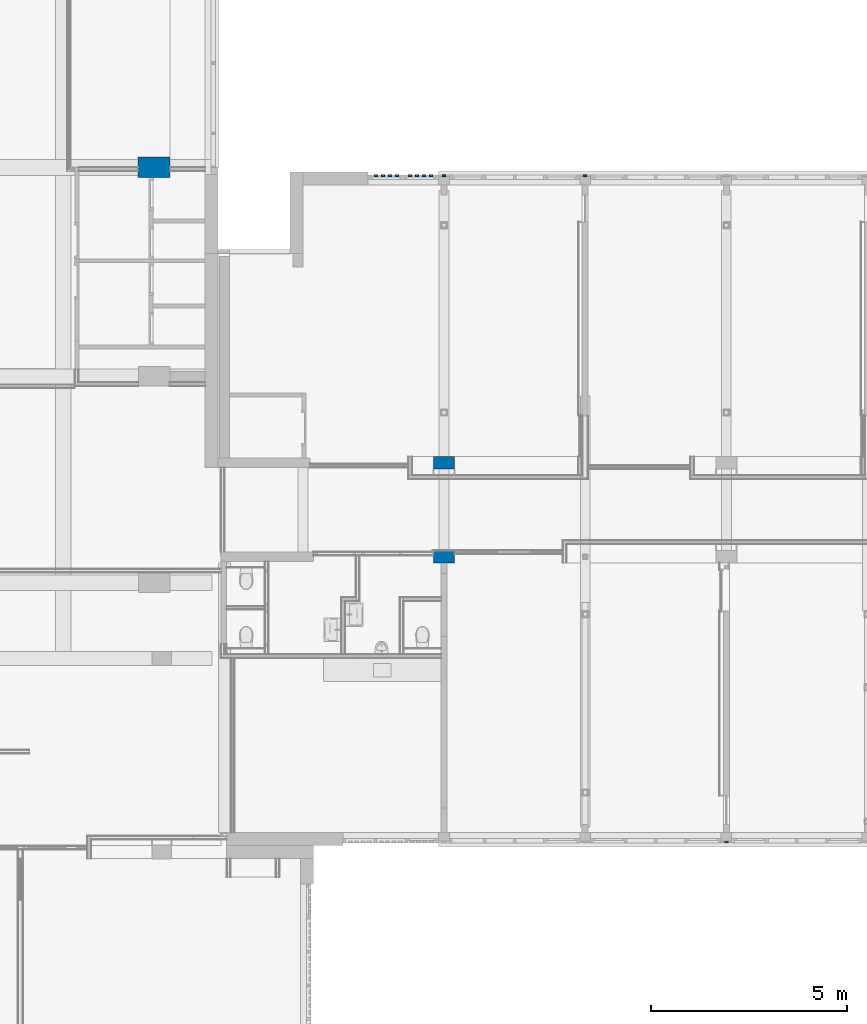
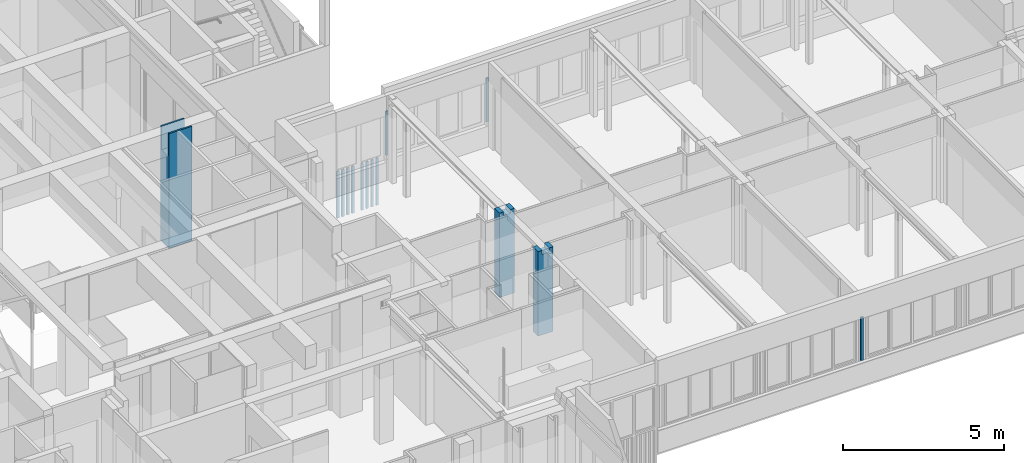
# One storey, part 17 of 117: 14 columns.
"""IFC2X3 building model written with IfcOpenShell, lengths in millimetres."""

from ifc_helpers import new_model, entity, si_unit, converted_unit, derived_unit, money_unit, direction, frame, origin_with_axes, place, context, subcontext, project, spatial, faceted_brep, material, type_object, element, save


model = new_model("IFC2X3")

# Units and contexts
model_context = context("Model", 3, precision=0.01, world=origin_with_axes(), true_north=direction((0.0, 1.0)))
body_context = subcontext(model_context, "Body", "Model", "MODEL_VIEW")
ifc_project = project(units=[si_unit("LENGTHUNIT", "METRE", prefix="MILLI"), si_unit("AREAUNIT", "SQUARE_METRE"), si_unit("VOLUMEUNIT", "CUBIC_METRE"), converted_unit("PLANEANGLEUNIT", "DEGREE", entity("IfcPlaneAngleMeasure", 0.0174532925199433), si_unit("PLANEANGLEUNIT", "RADIAN"), dimensions=[0, 0, 0, 0, 0, 0, 0]), money_unit("EUR"), converted_unit("TIMEUNIT", "Year", entity("IfcTimeMeasure", 31557600.0), si_unit("TIMEUNIT", "SECOND"), dimensions=[0, 0, 1, 0, 0, 0, 0]), si_unit("MASSUNIT", "GRAM", prefix="KILO"), si_unit("THERMODYNAMICTEMPERATUREUNIT", "DEGREE_CELSIUS"), si_unit("LUMINOUSINTENSITYUNIT", "LUMEN"), si_unit("ENERGYUNIT", "JOULE", prefix="MEGA"), derived_unit("THERMALCONDUCTANCEUNIT", [(si_unit("POWERUNIT", "WATT"), 1), (si_unit("LENGTHUNIT", "METRE"), -1), (si_unit("THERMODYNAMICTEMPERATUREUNIT", "KELVIN"), -1)]), derived_unit("SPECIFICHEATCAPACITYUNIT", [(si_unit("ENERGYUNIT", "JOULE"), 1), (si_unit("MASSUNIT", "GRAM", prefix="KILO"), -1), (si_unit("THERMODYNAMICTEMPERATUREUNIT", "KELVIN"), -1)]), derived_unit("MASSDENSITYUNIT", [(si_unit("MASSUNIT", "GRAM", prefix="KILO"), 1), (si_unit("VOLUMEUNIT", "CUBIC_METRE"), -1)])], contexts=[model_context])

# Site, building, storey
site_placement = place(None, origin_with_axes())
site = spatial("IfcSite", under=ifc_project, at=site_placement, Name="Site", CompositionType="ELEMENT")
building_placement = place(site_placement, origin_with_axes())
building = spatial("IfcBuilding", under=site, at=building_placement, Name="Naam gebouw", CompositionType="ELEMENT")
storey_placement = place(building_placement, frame((0.0, 0.0, 4150.0), z_axis=(0.0, 0.0, 1.0), x_axis=(1.0, 0.0, 0.0)))
storey = spatial("IfcBuildingStorey", under=building, at=storey_placement, Name="1e verdieping N", CompositionType="ELEMENT", Elevation=4150.0)

# Columns
ifc_material_1 = material(Name="Metaal - Staal C")
column_type_1 = type_object("IfcColumnType", Name="Metaal - Staal C 90 x 44", PredefinedType="COLUMN")
column_1_placement = place(storey_placement, frame((43199.99999999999, 10752.91242510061, 782.9999999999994), z_axis=(0.0, 0.0, 1.0), x_axis=(1.0, 0.0, 0.0)))
element("IfcColumn", 1, at=column_1_placement, inside=storey, type_object=column_type_1, material=ifc_material_1, Name="_Kolom-x", ObjectType="COLUMN", context=body_context, shape_type="Brep", body=[
    faceted_brep([(45.00000000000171, -22.00000000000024, 17.63269807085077), (45.00000000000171, -16.99999999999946, 18.51433297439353), (45.00000000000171, -16.99999999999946, 28.51433297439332), (45.00000000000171, -14.99999999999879, 28.51433297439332), (45.00000000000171, -14.99999999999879, 16.83613371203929), (45.00000000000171, -22.00000000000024, 15.6018448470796), (45.00000000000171, -22.00000000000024, 0.0), (45.00000000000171, 22.00000000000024, 0.0), (45.00000000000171, 22.00000000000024, 1657.0), (45.00000000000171, -22.00000000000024, 1657.0), (-45.00000000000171, -16.99999999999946, 18.51433297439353), (-45.00000000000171, -22.00000000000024, 17.63269807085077), (-45.00000000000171, -16.99999999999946, 28.51433297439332), (-45.00000000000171, -14.99999999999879, 28.51433297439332), (-45.00000000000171, -14.99999999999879, 16.83613371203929), (-45.00000000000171, -22.00000000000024, 15.6018448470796), (-45.00000000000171, -22.00000000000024, 0.0), (-45.00000000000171, 22.00000000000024, 0.0), (-45.00000000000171, 22.00000000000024, 1657.0), (-45.00000000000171, -22.00000000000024, 1657.0)], [[[0, 1, 2, 3, 4, 5, 6, 7, 8, 9]], [[10, 1, 0, 11]], [[12, 2, 1, 10]], [[13, 3, 2, 12]], [[14, 4, 3, 13]], [[15, 5, 4, 14]], [[6, 5, 15, 16]], [[7, 6, 16, 17]], [[18, 8, 7, 17]], [[8, 18, 19, 9]], [[19, 11, 0, 9]], [[12, 10, 11, 19, 18, 17, 16, 15, 14, 13]]]),
])
for number, where, z_axis, x_axis, name in (
    (2, (39599.99999999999, 27743.91242510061, 782.9999999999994), (0.0, 0.0, 1.0), (-1.0, 0.0, 0.0), "_Kolom-x"),
    (3, (35999.99999999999, 27743.91242510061, 782.9999999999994), (0.0, 0.0, 1.0), (-1.0, 0.0, 0.0), "_Kolom-x"),
):
    element("IfcColumn", number, at=place(storey_placement, frame(where, z_axis=z_axis, x_axis=x_axis)), inside=storey, type_object=column_type_1, material=ifc_material_1, Name=name, ObjectType="COLUMN", context=body_context, shape_type="Brep", body=[
        faceted_brep([(-45.00000000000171, -15.00000000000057, 28.51433297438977), (-45.00000000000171, -16.99999999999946, 28.51433297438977), (-45.00000000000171, -16.99999999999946, 18.51433297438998), (-45.00000000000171, -21.99999999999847, 17.63269807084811), (-45.00000000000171, -21.99999999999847, 1657.0), (-45.00000000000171, 21.99999999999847, 1657.0), (-45.00000000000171, 21.99999999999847, 0.0), (-45.00000000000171, -21.99999999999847, 0.0), (-45.00000000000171, -21.99999999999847, 15.60184484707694), (-45.00000000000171, -15.00000000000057, 16.83613371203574), (45.00000000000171, -16.99999999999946, 28.51433297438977), (45.00000000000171, -15.00000000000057, 28.51433297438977), (45.00000000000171, -16.99999999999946, 18.51433297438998), (45.00000000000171, -21.99999999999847, 17.63269807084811), (45.00000000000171, -21.99999999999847, 1657.0), (45.00000000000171, 21.99999999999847, 1657.0), (45.00000000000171, 21.99999999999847, 0.0), (45.00000000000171, -21.99999999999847, 0.0), (45.00000000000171, -21.99999999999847, 15.60184484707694), (45.00000000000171, -15.00000000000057, 16.83613371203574)], [[[0, 1, 2, 3, 4, 5, 6, 7, 8, 9]], [[10, 1, 0, 11]], [[12, 2, 1, 10]], [[12, 13, 3, 2]], [[4, 3, 13, 14]], [[15, 5, 4, 14]], [[5, 15, 16, 6]], [[16, 17, 7, 6]], [[17, 18, 8, 7]], [[19, 9, 8, 18]], [[11, 0, 9, 19]], [[11, 19, 18, 17, 16, 15, 14, 13, 12, 10]]]),
    ])
for number, where, z_axis, x_axis, name in (
    (4, (34795.75000000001, 27743.91242510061, -993.0000000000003), (0.0, 0.0, 1.0), (-1.0, 0.0, 0.0), "_Kolom-x"),
    (5, (34618.08333333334, 27743.91242510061, -993.0000000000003), (0.0, 0.0, 1.0), (-1.0, 0.0, 0.0), "_Kolom-x"),
    (6, (34440.41666666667, 27743.91242510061, -993.0000000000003), (0.0, 0.0, 1.0), (-1.0, 0.0, 0.0), "_Kolom-x"),
    (7, (35662.25000000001, 27743.91242510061, -993.0000000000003), (0.0, 0.0, 1.0), (-1.0, 0.0, 0.0), "_Kolom-x"),
    (8, (34262.75000000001, 27743.91242510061, -993.0000000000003), (0.0, 0.0, 1.0), (-1.0, 0.0, 0.0), "_Kolom-x"),
    (9, (35484.58333333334, 27743.91242510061, -993.0000000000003), (0.0, 0.0, 1.0), (-1.0, 0.0, 0.0), "_Kolom-x"),
    (10, (35306.91666666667, 27743.91242510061, -993.0000000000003), (0.0, 0.0, 1.0), (-1.0, 0.0, 0.0), "_Kolom-x"),
    (11, (35129.25000000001, 27743.91242510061, -993.0000000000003), (0.0, 0.0, 1.0), (-1.0, 0.0, 0.0), "_Kolom-x"),
):
    element("IfcColumn", number, at=place(storey_placement, frame(where, z_axis=z_axis, x_axis=x_axis)), inside=storey, type_object=column_type_1, material=ifc_material_1, Name=name, ObjectType="COLUMN", context=body_context, shape_type="Brep", body=[
        faceted_brep([(-45.00000000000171, -21.99999999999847, 1776.000000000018), (-45.00000000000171, -21.99999999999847, 0.0), (45.00000000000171, -21.99999999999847, 0.0), (45.00000000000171, -21.99999999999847, 1776.000000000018), (-45.00000000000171, 21.99999999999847, 1776.000000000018), (-45.00000000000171, 21.99999999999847, 0.0), (45.00000000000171, 21.99999999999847, 0.0), (45.00000000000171, 21.99999999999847, 1776.000000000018)], [[[0, 1, 2, 3]], [[4, 5, 1, 0]], [[2, 1, 5, 6]], [[3, 2, 6, 7]], [[4, 0, 3, 7]], [[7, 6, 5, 4]]]),
    ])
ifc_material_2 = material(Name="ALG - CONSTRUCTIEF")
column_type_2 = type_object("IfcColumnType", Name="ALG - CONSTRUCTIEF 540 x 310", PredefinedType="COLUMN")
column_2_placement = place(storey_placement, frame((36000.0, 20425.91242510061, -99.99999999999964), z_axis=(0.0, 0.0, 1.0), x_axis=(1.0, 0.0, 0.0)))
element("IfcColumn", 12, at=column_2_placement, inside=storey, type_object=column_type_2, material=ifc_material_2, Name="_Kolom-x", ObjectType="COLUMN", context=body_context, shape_type="Brep", body=[
    faceted_brep([(-125.0000000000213, 155.0000000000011, 3300.0), (-125.0000000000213, 155.0000000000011, 3149.999999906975), (124.9999999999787, 155.0000000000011, 3149.999999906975), (124.9999999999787, 155.0000000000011, 3300.0), (270.0000000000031, 155.0000000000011, 3300.0), (270.0000000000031, 155.0000000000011, 99.99999999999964), (-270.0000000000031, 155.0000000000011, 99.99999999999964), (-270.0000000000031, 155.0000000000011, 3300.0), (-125.0000000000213, -155.0000000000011, 3149.999999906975), (-125.0000000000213, -155.0000000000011, 3300.0), (124.9999999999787, -155.0000000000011, 3149.999999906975), (124.9999999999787, -155.0000000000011, 3300.0), (270.0000000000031, -155.0000000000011, 3300.0), (270.0000000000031, -155.0000000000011, 99.99999999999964), (-270.0000000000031, -155.0000000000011, 99.99999999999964), (-270.0000000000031, -155.0000000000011, 3300.0)], [[[0, 1, 2, 3, 4, 5, 6, 7]], [[8, 1, 0, 9]], [[10, 2, 1, 8]], [[10, 11, 3, 2]], [[4, 3, 11, 12]], [[13, 5, 4, 12]], [[13, 14, 6, 5]], [[6, 14, 15, 7]], [[15, 9, 0, 7]], [[10, 8, 9, 15, 14, 13, 12, 11]]]),
])
column_3_placement = place(storey_placement, frame((35999.99999999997, 18025.91242510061, -99.99999999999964), z_axis=(0.0, 0.0, 1.0), x_axis=(1.0, 0.0, 0.0)))
element("IfcColumn", 13, at=column_3_placement, inside=storey, type_object=column_type_2, material=ifc_material_2, Name="_Kolom-x", ObjectType="COLUMN", context=body_context, shape_type="Brep", body=[
    faceted_brep([(-124.9999999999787, 155.0000000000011, 3300.0), (-124.9999999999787, 155.0000000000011, 3149.999999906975), (125.0000000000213, 155.0000000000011, 3149.999999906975), (125.0000000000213, 155.0000000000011, 3300.0), (270.0000000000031, 155.0000000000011, 3300.0), (270.0000000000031, 155.0000000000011, 99.99999999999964), (-270.0000000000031, 155.0000000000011, 99.99999999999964), (-270.0000000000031, 155.0000000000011, 3300.0), (-124.9999999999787, -155.0000000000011, 3149.999999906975), (-124.9999999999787, -155.0000000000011, 3300.0), (125.0000000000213, -155.0000000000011, 3149.999999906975), (125.0000000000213, -155.0000000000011, 3300.0), (270.0000000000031, -155.0000000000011, 3300.0), (270.0000000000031, -155.0000000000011, 99.99999999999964), (-270.0000000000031, -155.0000000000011, 99.99999999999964), (-270.0000000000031, -155.0000000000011, 3300.0)], [[[0, 1, 2, 3, 4, 5, 6, 7]], [[8, 1, 0, 9]], [[10, 2, 1, 8]], [[10, 11, 3, 2]], [[4, 3, 11, 12]], [[13, 5, 4, 12]], [[13, 14, 6, 5]], [[6, 14, 15, 7]], [[15, 9, 0, 7]], [[10, 8, 9, 15, 14, 13, 12, 11]]]),
])
column_type_3 = type_object("IfcColumnType", Name="ALG - CONSTRUCTIEF 525 x 820", PredefinedType="COLUMN")
column_4_placement = place(storey_placement, frame((28605.99999999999, 27955.91242510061, -99.99999999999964), z_axis=(0.0, 0.0, 1.0), x_axis=(0.0, -1.0, 0.0)))
element("IfcColumn", 14, at=column_4_placement, inside=storey, type_object=column_type_3, material=ifc_material_2, Name="_Kolom-x", ObjectType="COLUMN", context=body_context, shape_type="Brep", body=[
    faceted_brep([(-262.4999999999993, -410.0000000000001, 4439.999999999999), (-199.9999999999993, -410.0000000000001, 4439.999999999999), (-199.9999999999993, 410.0000000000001, 4439.999999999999), (-262.4999999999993, 410.0000000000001, 4439.999999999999), (199.9999999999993, -410.0000000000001, 3549.999999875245), (-199.9999999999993, -410.0000000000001, 3549.999999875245), (-262.4999999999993, -410.0000000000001, 99.99999999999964), (262.4999999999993, -410.0000000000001, 99.99999999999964), (262.4999999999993, -410.0000000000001, 4439.999999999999), (199.9999999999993, -410.0000000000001, 4439.999999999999), (-199.9999999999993, 410.0000000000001, 3549.999999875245), (199.9999999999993, 410.0000000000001, 3549.999999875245), (199.9999999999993, 410.0000000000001, 4439.999999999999), (262.4999999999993, 410.0000000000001, 4439.999999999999), (262.4999999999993, 410.0000000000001, 99.99999999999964), (-262.4999999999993, 410.0000000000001, 99.99999999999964)], [[[0, 1, 2, 3]], [[4, 5, 1, 0, 6, 7, 8, 9]], [[5, 10, 2, 1]], [[10, 11, 12, 13, 14, 15, 3, 2]], [[0, 3, 15, 6]], [[4, 11, 10, 5]], [[14, 7, 6, 15]], [[13, 8, 7, 14]], [[13, 12, 9, 8]], [[4, 9, 12, 11]]]),
])

save(model, "model.ifc")
